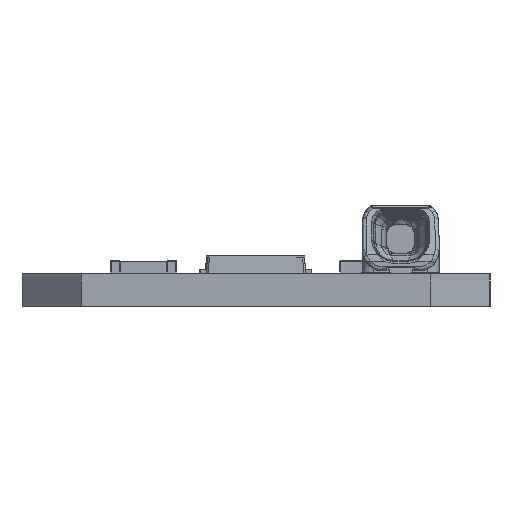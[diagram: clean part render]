
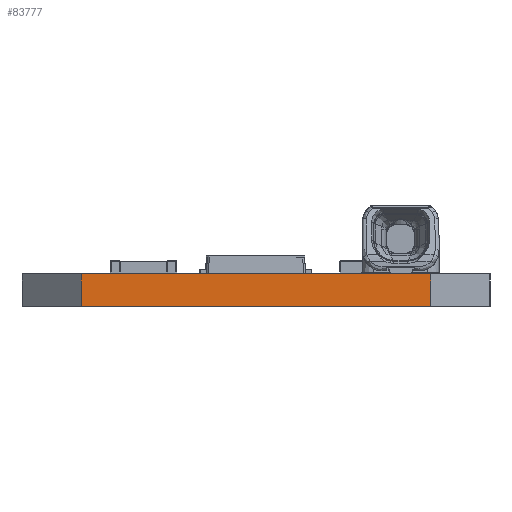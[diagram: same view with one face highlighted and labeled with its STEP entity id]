
A CAD part, left-side view. The second image highlights one B-rep face of the part: STEP entity #83777.
In plain terms, the highlighted planar face has unit normal (-1, 0, 0).
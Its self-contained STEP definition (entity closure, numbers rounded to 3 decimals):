
#4185=DIRECTION('',(0.,0.,1.));
#4186=VECTOR('',#4185,1.65);
#4187=CARTESIAN_POINT('',(-279.5,8.8,0.));
#4188=LINE('',#4187,#4186);
#4192=DIRECTION('',(0.,-1.,0.));
#4193=VECTOR('',#4192,17.6);
#4194=CARTESIAN_POINT('',(-279.5,8.8,1.65));
#4195=LINE('',#4194,#4193);
#4199=DIRECTION('',(0.,0.,1.));
#4200=VECTOR('',#4199,1.65);
#4201=CARTESIAN_POINT('',(-279.5,-8.8,0.));
#4202=LINE('',#4201,#4200);
#4469=DIRECTION('',(0.,-1.,0.));
#4470=VECTOR('',#4469,17.6);
#4471=CARTESIAN_POINT('',(-279.5,8.8,0.));
#4472=LINE('',#4471,#4470);
#69608=CARTESIAN_POINT('',(-279.5,-8.8,1.65));
#69609=VERTEX_POINT('',#69608);
#69610=CARTESIAN_POINT('',(-279.5,8.8,1.65));
#69611=VERTEX_POINT('',#69610);
#71692=CARTESIAN_POINT('',(-279.5,8.8,0.));
#71693=VERTEX_POINT('',#71692);
#71694=CARTESIAN_POINT('',(-279.5,-8.8,0.));
#71695=VERTEX_POINT('',#71694);
#83764=CARTESIAN_POINT('',(-279.5,0.,0.825));
#83765=DIRECTION('',(1.,0.,0.));
#83766=DIRECTION('',(0.,0.,1.));
#83767=AXIS2_PLACEMENT_3D('',#83764,#83765,#83766);
#83768=PLANE('',#83767);
#83770=ORIENTED_EDGE('',*,*,#83769,.F.);
#83772=ORIENTED_EDGE('',*,*,#83771,.F.);
#83773=ORIENTED_EDGE('',*,*,#83748,.T.);
#83774=ORIENTED_EDGE('',*,*,#80724,.T.);
#83775=EDGE_LOOP('',(#83770,#83772,#83773,#83774));
#83776=FACE_OUTER_BOUND('',#83775,.F.);
#80724=EDGE_CURVE('',#69611,#69609,#4195,.T.);
#83748=EDGE_CURVE('',#71693,#69611,#4188,.T.);
#83769=EDGE_CURVE('',#71695,#69609,#4202,.T.);
#83771=EDGE_CURVE('',#71693,#71695,#4472,.T.);
#83777=ADVANCED_FACE('',(#83776),#83768,.F.);
